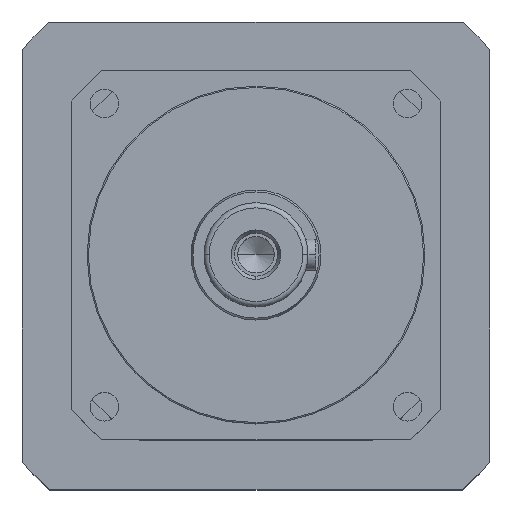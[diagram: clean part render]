
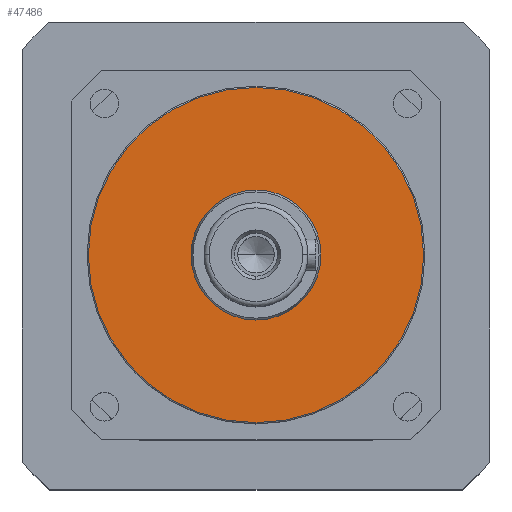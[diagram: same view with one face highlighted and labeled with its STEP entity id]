
A CAD part, top view. The second image highlights one B-rep face of the part: STEP entity #47486.
In plain terms, the highlighted planar face has unit normal (0, 0, 1).
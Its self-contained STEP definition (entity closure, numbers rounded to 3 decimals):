
#231 = CARTESIAN_POINT ( 'NONE',  ( 42.701, -165.879, 28.5 ) ) ;
#481 = EDGE_CURVE ( 'NONE', #58338, #33655, #54805, .T. ) ;
#1614 = EDGE_CURVE ( 'NONE', #57230, #15163, #35965, .T. ) ;
#2041 = AXIS2_PLACEMENT_3D ( 'NONE', #6080, #15823, #50685 ) ;
#3079 = DIRECTION ( 'NONE',  ( 0., 0., 1. ) ) ;
#6080 = CARTESIAN_POINT ( 'NONE',  ( 17.701, -165.879, 28.5 ) ) ;
#8581 = ORIENTED_EDGE ( 'NONE', *, *, #55739, .F. ) ;
#12782 = PLANE ( 'NONE',  #44675 ) ;
#14960 = DIRECTION ( 'NONE',  ( 1., 0., 0. ) ) ;
#15163 = VERTEX_POINT ( 'NONE', #29886 ) ;
#15823 = DIRECTION ( 'NONE',  ( 0., 0., 1. ) ) ;
#18453 = AXIS2_PLACEMENT_3D ( 'NONE', #22331, #35909, #31495 ) ;
#19066 = CARTESIAN_POINT ( 'NONE',  ( -7.299, -165.879, 28.5 ) ) ;
#20506 = ORIENTED_EDGE ( 'NONE', *, *, #43800, .T. ) ;
#21105 = DIRECTION ( 'NONE',  ( 1., 0., 0. ) ) ;
#22331 = CARTESIAN_POINT ( 'NONE',  ( 17.701, -165.879, 28.5 ) ) ;
#22419 = CARTESIAN_POINT ( 'NONE',  ( 82.201, -165.879, 28.5 ) ) ;
#24790 = CIRCLE ( 'NONE', #57743, 25. ) ;
#28393 = AXIS2_PLACEMENT_3D ( 'NONE', #50772, #33063, #51632 ) ;
#29886 = CARTESIAN_POINT ( 'NONE',  ( -46.799, -165.879, 28.5 ) ) ;
#31495 = DIRECTION ( 'NONE',  ( 1., 0., 0. ) ) ;
#32573 = CIRCLE ( 'NONE', #18453, 64.5 ) ;
#33063 = DIRECTION ( 'NONE',  ( 0., 0., 1. ) ) ;
#33655 = VERTEX_POINT ( 'NONE', #231 ) ;
#33689 = ORIENTED_EDGE ( 'NONE', *, *, #481, .F. ) ;
#35854 = EDGE_LOOP ( 'NONE', ( #33689, #8581 ) ) ;
#35909 = DIRECTION ( 'NONE',  ( 0., 0., 1. ) ) ;
#35965 = CIRCLE ( 'NONE', #2041, 64.5 ) ;
#38032 = ORIENTED_EDGE ( 'NONE', *, *, #1614, .T. ) ;
#43543 = CARTESIAN_POINT ( 'NONE',  ( 17.701, -165.879, 28.5 ) ) ;
#43800 = EDGE_CURVE ( 'NONE', #15163, #57230, #32573, .T. ) ;
#43863 = EDGE_LOOP ( 'NONE', ( #38032, #20506 ) ) ;
#44411 = FACE_BOUND ( 'NONE', #35854, .T. ) ;
#44675 = AXIS2_PLACEMENT_3D ( 'NONE', #43543, #3079, #21105 ) ;
#45975 = CARTESIAN_POINT ( 'NONE',  ( 17.701, -165.879, 28.5 ) ) ;
#47486 = ADVANCED_FACE ( 'NONE', ( #44411, #53245 ), #12782, .T. ) ;
#50685 = DIRECTION ( 'NONE',  ( 1., 0., 0. ) ) ;
#50772 = CARTESIAN_POINT ( 'NONE',  ( 17.701, -165.879, 28.5 ) ) ;
#51632 = DIRECTION ( 'NONE',  ( 1., 0., 0. ) ) ;
#53245 = FACE_OUTER_BOUND ( 'NONE', #43863, .T. ) ;
#54805 = CIRCLE ( 'NONE', #28393, 25. ) ;
#55397 = DIRECTION ( 'NONE',  ( 0., 0., 1. ) ) ;
#55739 = EDGE_CURVE ( 'NONE', #33655, #58338, #24790, .T. ) ;
#57230 = VERTEX_POINT ( 'NONE', #22419 ) ;
#57743 = AXIS2_PLACEMENT_3D ( 'NONE', #45975, #55397, #14960 ) ;
#58338 = VERTEX_POINT ( 'NONE', #19066 ) ;
